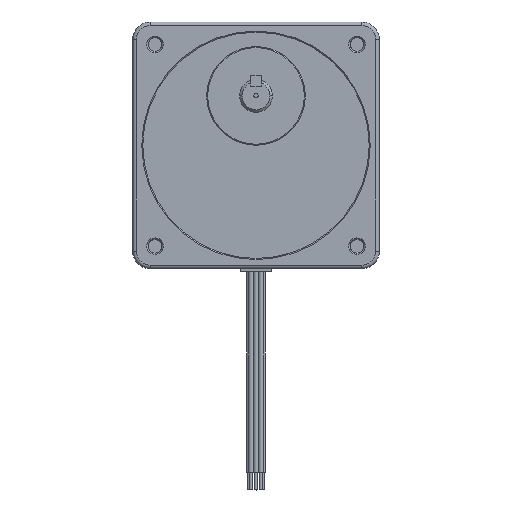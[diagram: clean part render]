
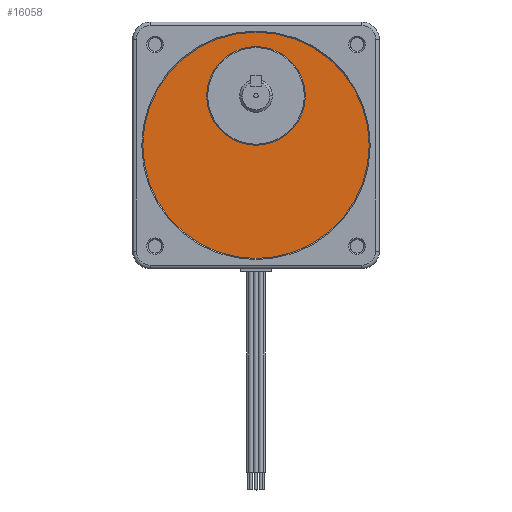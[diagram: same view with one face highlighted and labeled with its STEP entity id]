
A CAD part, top view. The second image highlights one B-rep face of the part: STEP entity #16058.
In plain terms, the highlighted planar face has unit normal (0, 0, 1).
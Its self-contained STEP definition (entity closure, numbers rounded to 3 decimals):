
#15863 = VERTEX_POINT ( 'NONE', #18389 ) ;
#15864 = VERTEX_POINT ( 'NONE', #18388 ) ;
#15866 = EDGE_CURVE ( 'NONE', #15933, #15934, #18383, .T. ) ;
#15929 = EDGE_CURVE ( 'NONE', #15864, #15863, #18524, .T. ) ;
#15933 = VERTEX_POINT ( 'NONE', #18568 ) ;
#15934 = VERTEX_POINT ( 'NONE', #18567 ) ;
#16031 = EDGE_CURVE ( 'NONE', #15934, #15933, #18874, .T. ) ;
#16034 = ORIENTED_EDGE ( 'NONE', *, *, #15866, .T. ) ;
#16035 = EDGE_CURVE ( 'NONE', #15863, #15864, #18862, .T. ) ;
#16040 = ORIENTED_EDGE ( 'NONE', *, *, #15929, .F. ) ;
#16046 = ORIENTED_EDGE ( 'NONE', *, *, #16031, .T. ) ;
#16050 = EDGE_LOOP ( 'NONE', ( #16046, #16034 ) ) ;
#16053 = EDGE_LOOP ( 'NONE', ( #16054, #16040 ) ) ;
#16054 = ORIENTED_EDGE ( 'NONE', *, *, #16035, .F. ) ;
#16058 = ADVANCED_FACE ( 'NONE', ( #18911, #18925 ), #18914, .T. ) ;
#18342 = AXIS2_PLACEMENT_3D ( 'NONE', #18375, #18374, #18373 ) ;
#18373 = DIRECTION ( 'NONE',  ( 1., 0., 0. ) ) ;
#18374 = DIRECTION ( 'NONE',  ( 0., 0., 1. ) ) ;
#18375 = CARTESIAN_POINT ( 'NONE',  ( 0., 0., 41.012 ) ) ;
#18383 = CIRCLE ( 'NONE', #18342, 41.275 ) ;
#18388 = CARTESIAN_POINT ( 'NONE',  ( 17.996, 18.009, 41.012 ) ) ;
#18389 = CARTESIAN_POINT ( 'NONE',  ( -17.996, 18.009, 41.012 ) ) ;
#18524 = CIRCLE ( 'NONE', #18577, 17.996 ) ;
#18530 = CARTESIAN_POINT ( 'NONE',  ( 0., 18.009, 41.012 ) ) ;
#18534 = DIRECTION ( 'NONE',  ( 0., 0., 1. ) ) ;
#18567 = CARTESIAN_POINT ( 'NONE',  ( 41.275, 0., 41.012 ) ) ;
#18568 = CARTESIAN_POINT ( 'NONE',  ( -41.275, 0., 41.012 ) ) ;
#18576 = DIRECTION ( 'NONE',  ( 1., 0., 0. ) ) ;
#18577 = AXIS2_PLACEMENT_3D ( 'NONE', #18530, #18534, #18576 ) ;
#18836 = AXIS2_PLACEMENT_3D ( 'NONE', #18866, #18865, #18864 ) ;
#18855 = DIRECTION ( 'NONE',  ( 1., 0., 0. ) ) ;
#18856 = DIRECTION ( 'NONE',  ( 0., 0., 1. ) ) ;
#18857 = CARTESIAN_POINT ( 'NONE',  ( 0., 18.009, 41.012 ) ) ;
#18858 = AXIS2_PLACEMENT_3D ( 'NONE', #18857, #18856, #18855 ) ;
#18862 = CIRCLE ( 'NONE', #18858, 17.996 ) ;
#18864 = DIRECTION ( 'NONE',  ( 1., 0., 0. ) ) ;
#18865 = DIRECTION ( 'NONE',  ( 0., 0., 1. ) ) ;
#18866 = CARTESIAN_POINT ( 'NONE',  ( 0., 0., 41.012 ) ) ;
#18874 = CIRCLE ( 'NONE', #18836, 41.275 ) ;
#18911 = FACE_OUTER_BOUND ( 'NONE', #16050, .T. ) ;
#18914 = PLANE ( 'NONE',  #18926 ) ;
#18925 = FACE_BOUND ( 'NONE', #16053, .T. ) ;
#18926 = AXIS2_PLACEMENT_3D ( 'NONE', #18953, #18952, #18951 ) ;
#18951 = DIRECTION ( 'NONE',  ( 1., 0., 0. ) ) ;
#18952 = DIRECTION ( 'NONE',  ( 0., 0., 1. ) ) ;
#18953 = CARTESIAN_POINT ( 'NONE',  ( 0., 0., 41.012 ) ) ;
